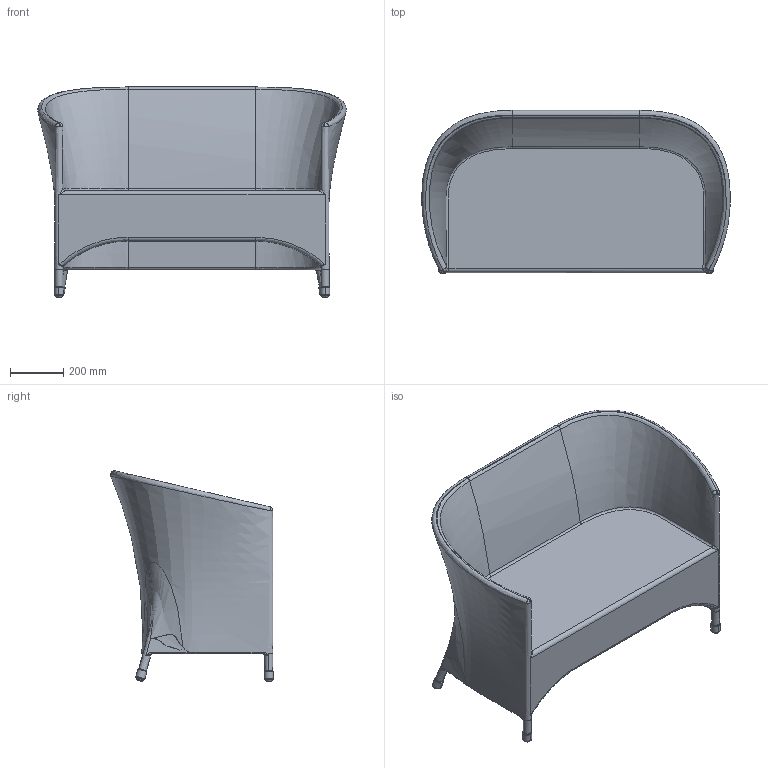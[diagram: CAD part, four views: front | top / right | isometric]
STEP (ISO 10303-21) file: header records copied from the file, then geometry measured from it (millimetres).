
FILE_DESCRIPTION(/* description */ (''),/* implementation_level */ '2;1');
FILE_NAME(/* name */ 'KINOSH~2',/* time_stamp */ '2019-07-19T09:46:22+09:00',/* author */ (''),/* organization */ (''),/* preprocessor_version */ 'ST-DEVELOPER v15',/* originating_system */ '',/* authorisation */ '');
FILE_SCHEMA (('AUTOMOTIVE_DESIGN'));
Length unit declared in the file: millimetre
Products named in the file (1): Document
Bounding box: 1159.36 x 612.15 x 790.21 mm (x, y, z)
Volume: 139609.5 mm3; surface area: 3790093.9 mm2
Topology: 4 solids, 6 shells, 164 faces, 409 edges, 242 vertices
Faces by surface type: bspline 138, plane 26
Entity records: 41584 total; most frequent: CARTESIAN_POINT 39314, ORIENTED_EDGE 767, EDGE_CURVE 399, VERTEX_POINT 242, B_SPLINE_CURVE_WITH_KNOTS 221, EDGE_LOOP 168, ADVANCED_FACE 164, FACE_OUTER_BOUND 164
